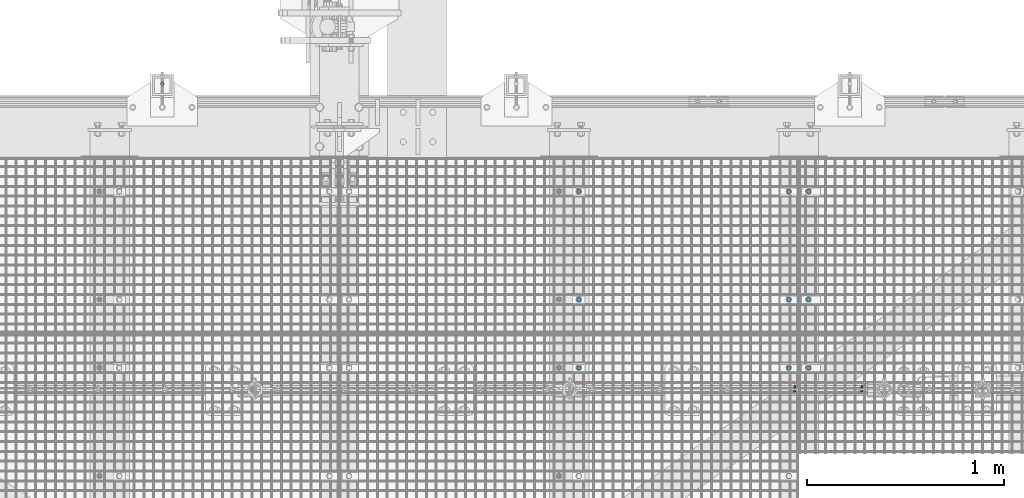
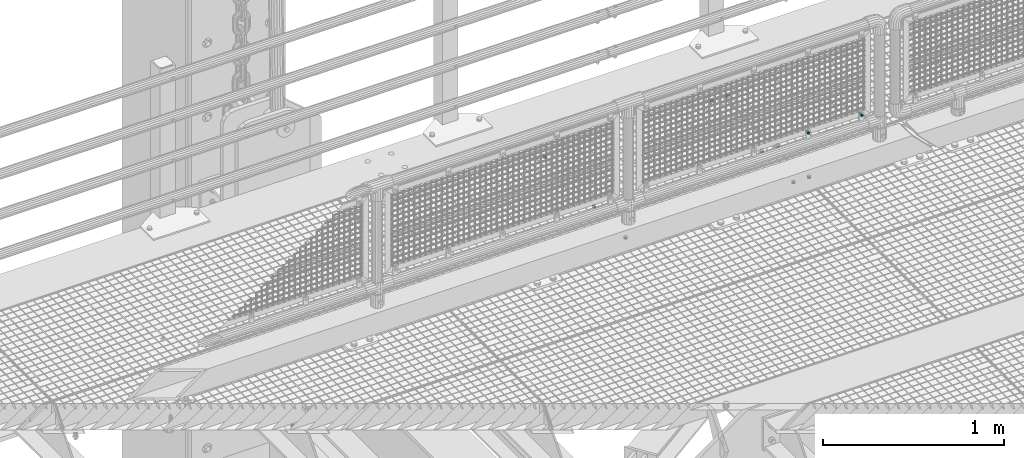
# One storey, part 101 of 1530: 12 mechanical fasteners.
"""IFC2X3 building model written with IfcOpenShell, lengths in millimetres."""

import ifcopenshell
import ifcopenshell.guid

model = None  # the IFC model being written
_history = None  # IfcOwnerHistory: only IFC2X3 demands one
_inside = {}  # id of a spatial element -> (the spatial element, [elements in it])
_under = {}  # id of a project, library or spatial element -> (it, [spatial elements below it])
_declared = {}  # id of a project -> (the project, [libraries it declares])
_typed = {}  # id of a type object -> (the type object, [elements of that type])
_made_of = {}  # id of a material, layer set ... -> (it, [elements and type objects made of it])


def new_model(schema):
    """Start an empty IFC model of exactly this schema.

    Asked for "IFC4X3", IfcOpenShell would pick the latest addendum, in which some entities
    have other attributes; the version numbers below select the first issue.
    IFC2X3 requires an IfcOwnerHistory on every rooted entity: one is made here for all.
    """
    global model, _history
    if schema == "IFC4X3":
        model = ifcopenshell.file(schema_version=(4, 3, 0, 0))
    else:
        model = ifcopenshell.file(schema=schema)
    _inside.clear()
    _under.clear()
    _declared.clear()
    _typed.clear()
    _made_of.clear()
    _history = None
    if model.schema == "IFC2X3":
        org = make("IfcOrganization", Name="unknown")
        user = make(
            "IfcPersonAndOrganization",
            ThePerson=make("IfcPerson", FamilyName="unknown"),
            TheOrganization=org,
        )
        app = make(
            "IfcApplication",
            ApplicationDeveloper=org,
            Version="unknown",
            ApplicationFullName="unknown",
            ApplicationIdentifier="unknown",
        )
        _history = make(
            "IfcOwnerHistory",
            OwningUser=user,
            OwningApplication=app,
            ChangeAction="ADDED",
            CreationDate=0,
        )
    return model


def make(cls, **values):
    """One entity of the class cls with the attributes given. An attribute that is None is left unset."""
    return model.create_entity(
        cls, **{name: value for name, value in values.items() if value is not None}
    )


def rooted(cls, **values):
    """An entity with a GlobalId (a new one), such as an element, a storey or a relation."""
    return make(cls, GlobalId=ifcopenshell.guid.new(), OwnerHistory=_history, **values)


def si_unit(unit_type, name, prefix=None):
    """IfcSIUnit, for example si_unit("LENGTHUNIT", "METRE", prefix="MILLI")."""
    return make("IfcSIUnit", UnitType=unit_type, Prefix=prefix, Name=name)


def assignment(units):
    """IfcUnitAssignment: the units of a project."""
    return None if units is None else make("IfcUnitAssignment", Units=units)


def point(xyz):
    """IfcCartesianPoint."""
    return None if xyz is None else make("IfcCartesianPoint", Coordinates=xyz)


def direction(xyz):
    """IfcDirection."""
    return None if xyz is None else make("IfcDirection", DirectionRatios=xyz)


def frame(location, z_axis=None, x_axis=None):
    """IfcAxis2Placement3D, a coordinate frame: its origin and axes. An axis left out is left unset."""
    return make(
        "IfcAxis2Placement3D",
        Location=point(location),
        Axis=direction(z_axis),
        RefDirection=direction(x_axis),
    )


def origin_with_axes():
    """The frame at (0, 0, 0) with the z axis (0, 0, 1) and the x axis (1, 0, 0) written out."""
    return frame((0.0, 0.0, 0.0), z_axis=(0.0, 0.0, 1.0), x_axis=(1.0, 0.0, 0.0))


def place(relative_to, where):
    """IfcLocalPlacement: puts the frame where relative to a parent placement (None: the world)."""
    return make(
        "IfcLocalPlacement", PlacementRelTo=relative_to, RelativePlacement=where
    )


def context(
    kind, dimensions, precision=None, world=None, true_north=None, identifier=None
):
    """IfcGeometricRepresentationContext, for example the 3D "Model" context."""
    return make(
        "IfcGeometricRepresentationContext",
        ContextIdentifier=identifier,
        ContextType=kind,
        CoordinateSpaceDimension=dimensions,
        Precision=precision,
        WorldCoordinateSystem=world,
        TrueNorth=true_north,
    )


def subcontext(parent, identifier, kind, view, scale=None):
    """IfcGeometricRepresentationSubContext, for example "Body" below "Model"."""
    return make(
        "IfcGeometricRepresentationSubContext",
        ContextIdentifier=identifier,
        ContextType=kind,
        ParentContext=parent,
        TargetScale=scale,
        TargetView=view,
    )


def project(units=None, contexts=None):
    """IfcProject with its units and contexts."""
    return rooted(
        "IfcProject",
        Name="project",
        RepresentationContexts=contexts,
        UnitsInContext=assignment(units),
    )


def spatial(cls, under=None, at=None, **own):
    """A site, building, storey or space (cls), placed at a placement, below another one or the project."""
    s = rooted(cls, ObjectPlacement=at, **own)
    if under is not None:
        _under.setdefault(under.id(), (under, []))[1].append(s)
    return s


def faces_of(points, faces, orient=None, outer=None):
    """IfcFace entities. A face is a list of loops; a loop is a list of indices into points, from 0.

    orient and outer hold one flag for each loop. By default every Orientation is true, the
    first loop of a face is its IfcFaceOuterBound and the others are IfcFaceBound.
    """
    made = []
    for i, loops in enumerate(faces):
        bounds = []
        for j, loop in enumerate(loops):
            is_outer = j == 0 if outer is None else outer[i][j]
            bounds.append(
                make(
                    "IfcFaceOuterBound" if is_outer else "IfcFaceBound",
                    Bound=make("IfcPolyLoop", Polygon=[points[k] for k in loop]),
                    Orientation=True if orient is None else orient[i][j],
                )
            )
        made.append(make("IfcFace", Bounds=bounds))
    return made


def faceted_brep(points, faces, orient=None, outer=None, voids=None):
    """IfcFacetedBrep: a solid bounded by flat faces; with voids (closed shells), ...WithVoids."""
    shared = [point(p) for p in points]
    hull = make("IfcClosedShell", CfsFaces=faces_of(shared, faces, orient, outer))
    if voids is None:
        return make("IfcFacetedBrep", Outer=hull)
    return make(
        "IfcFacetedBrepWithVoids",
        Outer=hull,
        Voids=[
            make(cls, CfsFaces=faces_of(shared, fs, o, b)) for cls, fs, o, b in voids
        ],
    )


def shape(context_of_items, identifier, shape_type, items):
    """IfcShapeRepresentation: the items that make up one representation, for example the "Body"."""
    return make(
        "IfcShapeRepresentation",
        ContextOfItems=context_of_items,
        RepresentationIdentifier=identifier,
        RepresentationType=shape_type,
        Items=items,
    )


def source(mapping_origin, context_of_items, identifier, shape_type, items):
    """IfcRepresentationMap: a shape defined once, which mapped items show again and again."""
    return make(
        "IfcRepresentationMap",
        MappingOrigin=mapping_origin,
        MappedRepresentation=shape(context_of_items, identifier, shape_type, items),
    )


def transform(
    local_origin,
    x_axis=None,
    y_axis=None,
    z_axis=None,
    scale=None,
    scale2=None,
    scale3=None,
    uniform=True,
):
    """IfcCartesianTransformationOperator3D, or its non-uniform kind. x_axis, y_axis, z_axis: its Axis1, 2, 3."""
    if uniform:
        return make(
            "IfcCartesianTransformationOperator3D",
            Axis1=direction(x_axis),
            Axis2=direction(y_axis),
            LocalOrigin=point(local_origin),
            Scale=scale,
            Axis3=direction(z_axis),
        )
    return make(
        "IfcCartesianTransformationOperator3DnonUniform",
        Axis1=direction(x_axis),
        Axis2=direction(y_axis),
        LocalOrigin=point(local_origin),
        Scale=scale,
        Axis3=direction(z_axis),
        Scale2=scale2,
        Scale3=scale3,
    )


def mapped(mapping_source, mapping_target):
    """IfcMappedItem: shows the shape of a source again, moved by a transform."""
    return make(
        "IfcMappedItem", MappingSource=mapping_source, MappingTarget=mapping_target
    )


def material(Name=None, Category=None):
    """IfcMaterial."""
    return make("IfcMaterial", Name=Name, Category=Category)


def made_of(thing, what):
    """Note that an element or type object is made of a material, layer set ...; save() writes the relation."""
    if what is not None:
        _made_of.setdefault(what.id(), (what, []))[1].append(thing)
    return thing


def type_object(cls, material=None, **own):
    """A type object (cls), such as IfcWallType, which elements share."""
    return made_of(rooted(cls, **own), material)


def element(
    cls,
    number,
    at=None,
    inside=None,
    cuts=None,
    type_object=None,
    material=None,
    context=None,
    identifier="Body",
    shape_type=None,
    held_by="IfcProductDefinitionShape",
    body=None,
    shapes=None,
    **own,
):
    """One element of the class cls, such as IfcWall. Its Tag is "e" and its number.

    at: its placement. inside: the storey or other place that contains it. cuts: it is an
    opening in that element (IfcRelVoidsElement). A single representation is given by context,
    identifier, shape_type and body (its items); several are given by shapes. held_by: the class
    of the entity that holds the representations. save() writes the other relations.
    """
    e = rooted(cls, Tag="e%d" % number, ObjectPlacement=at, **own)
    if body is not None:
        shapes = [shape(context, identifier, shape_type, body)]
    if shapes is not None:
        e.Representation = make(held_by, Representations=shapes)
    if inside is not None:
        _inside.setdefault(inside.id(), (inside, []))[1].append(e)
    if cuts is not None:
        rooted(
            "IfcRelVoidsElement", RelatingBuildingElement=cuts, RelatedOpeningElement=e
        )
    if type_object is not None:
        _typed.setdefault(type_object.id(), (type_object, []))[1].append(e)
    return made_of(e, material)


def aggregate(whole, parts):
    """IfcRelAggregates: a whole, such as a stair, and the parts it consists of."""
    return rooted("IfcRelAggregates", RelatingObject=whole, RelatedObjects=parts)


def save(model, path):
    """Write the relations noted so far, then the file.

    IfcRelAggregates (storeys below a building ...), IfcRelContainedInSpatialStructure (elements
    in a storey), IfcRelDefinesByType, IfcRelAssociatesMaterial and IfcRelDeclares: one each for
    every whole, place, type object, material and project.
    """
    for whole, parts in _under.values():
        aggregate(whole, parts)
    for where, things in _inside.values():
        rooted(
            "IfcRelContainedInSpatialStructure",
            RelatedElements=things,
            RelatingStructure=where,
        )
    for kind, things in _typed.values():
        rooted("IfcRelDefinesByType", RelatedObjects=things, RelatingType=kind)
    for what, things in _made_of.values():
        rooted("IfcRelAssociatesMaterial", RelatedObjects=things, RelatingMaterial=what)
    for by, libraries in _declared.values():
        rooted("IfcRelDeclares", RelatingContext=by, RelatedDefinitions=libraries)
    model.write(path)


model = new_model("IFC2X3")

# Units and contexts
model_context = context("Model", 3, precision=1e-05, world=origin_with_axes())
body_context = subcontext(model_context, "Body", "Model", "MODEL_VIEW")
ifc_project = project(units=[si_unit("LENGTHUNIT", "METRE", prefix="MILLI"), si_unit("AREAUNIT", "SQUARE_METRE"), si_unit("VOLUMEUNIT", "CUBIC_METRE"), si_unit("MASSUNIT", "GRAM", prefix="KILO"), si_unit("TIMEUNIT", "SECOND"), si_unit("PLANEANGLEUNIT", "RADIAN"), si_unit("SOLIDANGLEUNIT", "STERADIAN"), si_unit("THERMODYNAMICTEMPERATUREUNIT", "DEGREE_CELSIUS"), si_unit("LUMINOUSINTENSITYUNIT", "LUMEN")], contexts=[model_context])

# Site, building, storey
site_placement = place(None, origin_with_axes())
site = spatial("IfcSite", under=ifc_project, at=site_placement, Name="Brattvåg", CompositionType="ELEMENT")
building_placement = place(site_placement, origin_with_axes())
building = spatial("IfcBuilding", under=site, at=building_placement, Name="Undefined", CompositionType="ELEMENT")
storey_placement = place(building_placement, origin_with_axes())
storey = spatial("IfcBuildingStorey", under=building, at=storey_placement, Name="Undefined", CompositionType="ELEMENT", Elevation=0.0)

# Mechanical fasteners
ifc_material = material(Name="8")
mechanical_fastener_type = type_object("IfcMechanicalFastenerType", Name="Bolt assembly")
shared_shape_1 = source(origin_with_axes(), body_context, "Body", "Brep", [
    faceted_brep([(11.0, -4.99999999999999, 0.0), (9.52627944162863, -4.99999999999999, 5.50000000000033), (5.49999999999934, -4.99999999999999, 9.5262794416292), (-1.13996957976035e-12, -4.99999999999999, 11.0), (-5.50000000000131, -4.99999999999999, 9.52627944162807), (-9.52627944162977, -4.99999999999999, 5.49999999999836), (-11.0, -4.99999999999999, -2.27993915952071e-12), (-9.5262794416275, -4.99999999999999, -5.5000000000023), (-5.49999999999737, -4.99999999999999, -9.52627944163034), (3.40769628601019e-12, -4.99999999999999, -11.0), (5.50000000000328, -4.99999999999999, -9.52627944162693), (9.52627944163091, -4.99999999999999, -5.49999999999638), (9.52627944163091, 10.1, -5.49999999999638), (5.50000000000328, 10.1, -9.52627944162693), (3.40769628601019e-12, 10.1, -11.0), (-5.49999999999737, 10.1, -9.52627944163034), (-9.5262794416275, 10.1, -5.5000000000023), (-11.0, 10.1, -2.27993915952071e-12), (-9.52627944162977, 10.1, 5.49999999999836), (-5.50000000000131, 10.1, 9.52627944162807), (-1.13996957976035e-12, 10.1, 11.0), (5.49999999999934, 10.1, 9.5262794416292), (9.52627944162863, 10.1, 5.50000000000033), (11.0, 10.1, 0.0)], [[[0, 1, 2, 3, 4, 5, 6, 7, 8, 9, 10, 11]], [[12, 13, 14, 15, 16, 17, 18, 19, 20, 21, 22, 23]], [[0, 23, 22, 1]], [[1, 22, 21, 2]], [[2, 21, 20, 3]], [[3, 20, 19, 4]], [[4, 19, 18, 5]], [[5, 18, 17, 6]], [[6, 17, 16, 7]], [[7, 16, 15, 8]], [[8, 15, 14, 9]], [[9, 14, 13, 10]], [[10, 13, 12, 11]], [[11, 12, 23, 0]]]),
])
for number, where, z_axis, x_axis, name in (
    (1, (14636.0047793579, 8121.91931152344, -35.0), (0.0, 1.0, 0.0), (1.0, 0.0, 0.0), "Bolt assembly"),
    (2, (14636.0047793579, 8671.99411010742, -35.0), (0.0, 1.0, 0.0), (1.0, 0.0, 0.0), "Bolt assembly"),
    (3, (14636.0047793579, 7774.99411010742, -35.0), (0.0, 1.0, 0.0), (1.0, 0.0, 0.0), "Bolt assembly"),
    (4, (14536.0148773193, 8671.99411010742, -35.0), (0.0, -1.0, 0.0), (-1.0, 1.99999855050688e-09, 0.0), "Bolt assembly"),
    (5, (14536.0148773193, 8121.9904864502, -35.0), (0.0, -1.0, 0.0), (-1.0, 1.99999855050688e-09, 0.0), "Bolt assembly"),
    (6, (13468.0145606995, 8671.99565124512, -35.0), (0.0, -1.0, 0.0), (-1.0, 1.99999855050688e-09, 0.0), "Bolt assembly"),
    (7, (13468.0119254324, 8121.99, -35.0), (0.0, -1.0, 0.0), (-1.0, 1.99999855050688e-09, 0.0), "Bolt assembly"),
    (8, (14536.0148773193, 7774.99411010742, -35.0), (0.0, -1.0, 0.0), (-1.0, 1.99999855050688e-09, 0.0), "Bolt assembly"),
    (9, (13468.0145606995, 7774.99565124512, -35.0), (0.0, -1.0, 0.0), (-1.0, 1.99999855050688e-09, 0.0), "Bolt assembly"),
):
    element("IfcMechanicalFastener", number, at=place(storey_placement, frame(where, z_axis=z_axis, x_axis=x_axis)), inside=storey, type_object=mechanical_fastener_type, material=ifc_material, Name=name, NominalDiameter=20.0, NominalLength=15.0, context=body_context, shape_type="MappedRepresentation", body=[
        mapped(shared_shape_1, transform((0.0, 0.0, 0.0))),
    ])
shared_shape_2 = source(origin_with_axes(), body_context, "Body", "Brep", [
    faceted_brep([(9.0, -0.000108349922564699, 0.0), (7.79422863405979, -0.000108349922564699, 4.50000000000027), (4.49999999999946, -0.000108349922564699, 7.79422863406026), (-9.3270238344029e-13, -0.000108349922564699, 9.0), (-4.50000000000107, -0.000108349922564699, 7.79422863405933), (-7.79422863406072, -0.000108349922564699, 4.49999999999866), (-9.0, -0.000108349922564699, -1.86540476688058e-12), (-7.79422863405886, -0.000108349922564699, -4.50000000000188), (-4.49999999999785, -0.000108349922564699, -7.79422863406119), (2.78811514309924e-12, -0.000108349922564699, -9.0), (4.50000000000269, -0.000108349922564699, -7.7942286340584), (7.79422863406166, -0.000108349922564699, -4.49999999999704), (7.79422863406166, 10.0998916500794, -4.49999999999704), (4.50000000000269, 10.0998916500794, -7.7942286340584), (2.78811514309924e-12, 10.0998916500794, -9.0), (-4.49999999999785, 10.0998916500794, -7.79422863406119), (-7.79422863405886, 10.0998916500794, -4.50000000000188), (-9.0, 10.0998916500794, -1.86540476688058e-12), (-7.79422863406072, 10.0998916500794, 4.49999999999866), (-4.50000000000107, 10.0998916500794, 7.79422863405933), (-9.3270238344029e-13, 10.0998916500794, 9.0), (4.49999999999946, 10.0998916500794, 7.79422863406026), (7.79422863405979, 10.0998916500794, 4.50000000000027), (9.0, 10.0998916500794, 0.0)], [[[0, 1, 2, 3, 4, 5, 6, 7, 8, 9, 10, 11]], [[12, 13, 14, 15, 16, 17, 18, 19, 20, 21, 22, 23]], [[0, 23, 22, 1]], [[1, 22, 21, 2]], [[2, 21, 20, 3]], [[3, 20, 19, 4]], [[4, 19, 18, 5]], [[5, 18, 17, 6]], [[6, 17, 16, 7]], [[7, 16, 15, 8]], [[8, 15, 14, 9]], [[9, 14, 13, 10]], [[10, 13, 12, 11]], [[11, 12, 23, 0]]]),
])
mechanical_fastener_1_placement = place(storey_placement, frame((11350.0001602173, 9219.99992874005, -855.000061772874), z_axis=(-1.0, 1.99999855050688e-09, 0.0), x_axis=(0.0, -0.99999999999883, 1.53000000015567e-06)))
element("IfcMechanicalFastener", 10, at=mechanical_fastener_1_placement, inside=storey, type_object=mechanical_fastener_type, material=ifc_material, Name="Bolt assembly", NominalDiameter=16.0, NominalLength=10.0001087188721, context=body_context, shape_type="MappedRepresentation", body=[
    mapped(shared_shape_2, transform((0.0, 0.0, 0.0))),
])
shared_shape_3 = source(origin_with_axes(), body_context, "Body", "Brep", [
    faceted_brep([(7.50555349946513, -6.899000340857, 0.0), (3.75277674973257, -6.899000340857, 6.5), (-3.75277674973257, -6.899000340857, 6.5), (-7.50555349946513, -6.899000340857, 9.19165206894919e-16), (-3.75277674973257, -6.899000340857, -6.5), (3.75277674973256, -6.899000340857, -6.5), (3.75277674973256, -1.59900015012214, -6.5), (-3.75277674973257, -1.59900015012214, -6.5), (-7.50555349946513, -1.59900015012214, 9.19165206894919e-16), (-3.75277674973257, -1.59900015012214, 6.5), (3.75277674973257, -1.59900015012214, 6.5), (7.50555349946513, -1.59900015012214, 0.0), (4.0, -1.59900015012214, 0.0), (3.46410161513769, -1.59900015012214, 2.00000000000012), (1.99999999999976, -1.59900015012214, 3.46410161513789), (-4.14534392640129e-13, -1.59900015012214, 4.0), (-2.00000000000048, -1.59900015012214, 3.46410161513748), (-3.4641016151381, -1.59900015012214, 1.9999999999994), (-4.0, -1.59900015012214, -8.29068785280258e-13), (-3.46410161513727, -1.59900015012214, -2.00000000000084), (-1.99999999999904, -1.59900015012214, -3.46410161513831), (1.23916228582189e-12, -1.59900015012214, -4.0), (2.00000000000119, -1.59900015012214, -3.46410161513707), (3.46410161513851, -1.59900015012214, -1.99999999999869), (3.46410161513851, 28.4009998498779, -1.99999999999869), (2.00000000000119, 28.4009998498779, -3.46410161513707), (1.23916228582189e-12, 28.4009998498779, -4.0), (-1.99999999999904, 28.4009998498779, -3.46410161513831), (-3.46410161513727, 28.4009998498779, -2.00000000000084), (-4.0, 28.4009998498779, -8.29068785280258e-13), (-3.4641016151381, 28.4009998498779, 1.9999999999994), (-2.00000000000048, 28.4009998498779, 3.46410161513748), (-4.14534392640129e-13, 28.4009998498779, 4.0), (1.99999999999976, 28.4009998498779, 3.46410161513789), (3.46410161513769, 28.4009998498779, 2.00000000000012), (4.0, 28.4009998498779, 0.0), (8.5, -1.59900015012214, 0.0), (7.36121593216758, -1.59900015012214, 4.25000000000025), (4.24999999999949, -1.59900015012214, 7.36121593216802), (-8.80885584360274e-13, -1.59900015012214, 8.5), (-4.25000000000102, -1.59900015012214, 7.36121593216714), (-7.36121593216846, -1.59900015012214, 4.24999999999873), (-8.5, -1.59900015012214, -1.76177116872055e-12), (-7.3612159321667, -1.59900015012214, -4.25000000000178), (-4.24999999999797, -1.59900015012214, -7.3612159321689), (2.63321985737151e-12, -1.59900015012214, -8.5), (4.25000000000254, -1.59900015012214, -7.36121593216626), (7.36121593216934, -1.59900015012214, -4.24999999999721), (7.36121593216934, 0.000999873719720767, -4.24999999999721), (4.25000000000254, 0.000999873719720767, -7.36121593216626), (2.63321985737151e-12, 0.000999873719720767, -8.5), (-4.24999999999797, 0.000999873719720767, -7.3612159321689), (-7.3612159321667, 0.000999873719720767, -4.25000000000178), (-8.5, 0.000999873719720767, -1.76177116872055e-12), (-7.36121593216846, 0.000999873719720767, 4.24999999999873), (-4.25000000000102, 0.000999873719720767, 7.36121593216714), (-8.80885584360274e-13, 0.000999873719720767, 8.5), (4.24999999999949, 0.000999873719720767, 7.36121593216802), (7.36121593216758, 0.000999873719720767, 4.25000000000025), (8.5, 0.000999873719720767, 0.0), (8.5, 11.5030995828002, 0.0), (7.36121593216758, 11.5030995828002, 4.25000000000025), (4.24999999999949, 11.5030995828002, 7.36121593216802), (-8.80885584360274e-13, 11.5030995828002, 8.5), (-4.25000000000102, 11.5030995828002, 7.36121593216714), (-7.36121593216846, 11.5030995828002, 4.24999999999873), (-8.5, 11.5030995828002, -1.76177116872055e-12), (-7.3612159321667, 11.5030995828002, -4.25000000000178), (-4.24999999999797, 11.5030995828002, -7.3612159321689), (2.63321985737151e-12, 11.5030995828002, -8.5), (4.25000000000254, 11.5030995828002, -7.36121593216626), (7.36121593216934, 11.5030995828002, -4.24999999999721), (7.36121593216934, 13.1030996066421, -4.24999999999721), (4.25000000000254, 13.1030996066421, -7.36121593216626), (2.63321985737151e-12, 13.1030996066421, -8.5), (-4.24999999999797, 13.1030996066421, -7.3612159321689), (-7.3612159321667, 13.1030996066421, -4.25000000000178), (-8.5, 13.1030996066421, -1.76177116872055e-12), (-7.36121593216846, 13.1030996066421, 4.24999999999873), (-4.25000000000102, 13.1030996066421, 7.36121593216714), (-8.80885584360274e-13, 13.1030996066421, 8.5), (4.24999999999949, 13.1030996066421, 7.36121593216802), (7.36121593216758, 13.1030996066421, 4.25000000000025), (8.5, 13.1030996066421, 0.0), (7.50555349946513, 13.1030996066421, 0.0), (3.75277674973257, 13.1030996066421, 6.5), (-3.75277674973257, 13.1030996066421, 6.5), (-7.50555349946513, 13.1030996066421, 9.19165206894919e-16), (-3.75277674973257, 13.1030996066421, -6.5), (3.75277674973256, 13.1030996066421, -6.5), (3.75277674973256, 19.9030997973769, -6.5), (-3.75277674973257, 19.9030997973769, -6.5), (-7.50555349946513, 19.9030997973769, 9.19165206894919e-16), (-3.75277674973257, 19.9030997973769, 6.5), (3.75277674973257, 19.9030997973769, 6.5), (7.50555349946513, 19.9030997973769, 0.0)], [[[0, 1, 2, 3, 4, 5]], [[6, 7, 8, 9, 10, 11]], [[0, 11, 10, 1]], [[1, 10, 9, 2]], [[2, 9, 8, 3]], [[3, 8, 7, 4]], [[4, 7, 6, 5]], [[5, 6, 11, 0]], [[12, 13, 14, 15, 16, 17, 18, 19, 20, 21, 22, 23]], [[24, 25, 26, 27, 28, 29, 30, 31, 32, 33, 34, 35]], [[12, 35, 34, 13]], [[13, 34, 33, 14]], [[14, 33, 32, 15]], [[15, 32, 31, 16]], [[16, 31, 30, 17]], [[17, 30, 29, 18]], [[18, 29, 28, 19]], [[19, 28, 27, 20]], [[20, 27, 26, 21]], [[21, 26, 25, 22]], [[22, 25, 24, 23]], [[23, 24, 35, 12]], [[36, 37, 38, 39, 40, 41, 42, 43, 44, 45, 46, 47]], [[48, 49, 50, 51, 52, 53, 54, 55, 56, 57, 58, 59]], [[36, 59, 58, 37]], [[37, 58, 57, 38]], [[38, 57, 56, 39]], [[39, 56, 55, 40]], [[40, 55, 54, 41]], [[41, 54, 53, 42]], [[42, 53, 52, 43]], [[43, 52, 51, 44]], [[44, 51, 50, 45]], [[45, 50, 49, 46]], [[46, 49, 48, 47]], [[47, 48, 59, 36]], [[60, 61, 62, 63, 64, 65, 66, 67, 68, 69, 70, 71]], [[72, 73, 74, 75, 76, 77, 78, 79, 80, 81, 82, 83]], [[60, 83, 82, 61]], [[61, 82, 81, 62]], [[62, 81, 80, 63]], [[63, 80, 79, 64]], [[64, 79, 78, 65]], [[65, 78, 77, 66]], [[66, 77, 76, 67]], [[67, 76, 75, 68]], [[68, 75, 74, 69]], [[69, 74, 73, 70]], [[70, 73, 72, 71]], [[71, 72, 83, 60]], [[84, 85, 86, 87, 88, 89]], [[90, 91, 92, 93, 94, 95]], [[84, 95, 94, 85]], [[85, 94, 93, 86]], [[86, 93, 92, 87]], [[87, 92, 91, 88]], [[88, 91, 90, 89]], [[89, 90, 95, 84]]]),
    faceted_brep([(5.0, 0.100999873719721, 0.0), (4.33012701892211, 0.100999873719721, 2.50000000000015), (2.4999999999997, 0.100999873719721, 4.33012701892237), (-5.18167990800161e-13, 0.100999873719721, 5.0), (-2.5000000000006, 0.100999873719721, 4.33012701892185), (-4.33012701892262, 0.100999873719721, 2.49999999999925), (-5.0, 0.100999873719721, -1.03633598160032e-12), (-4.33012701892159, 0.100999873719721, -2.50000000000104), (-2.49999999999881, 0.100999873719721, -4.33012701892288), (1.54895285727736e-12, 0.100999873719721, -5.0), (2.50000000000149, 0.100999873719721, -4.33012701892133), (4.33012701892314, 0.100999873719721, -2.49999999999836), (4.33012701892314, 8.10099988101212, -2.49999999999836), (2.50000000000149, 8.10099988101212, -4.33012701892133), (1.54895285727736e-12, 8.10099988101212, -5.0), (-2.49999999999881, 8.10099988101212, -4.33012701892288), (-4.33012701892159, 8.10099988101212, -2.50000000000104), (-5.0, 8.10099988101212, -1.03633598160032e-12), (-4.33012701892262, 8.10099988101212, 2.49999999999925), (-2.5000000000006, 8.10099988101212, 4.33012701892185), (-5.18167990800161e-13, 8.10099988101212, 5.0), (2.4999999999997, 8.10099988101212, 4.33012701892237), (4.33012701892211, 8.10099988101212, 2.50000000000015), (5.0, 8.10099988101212, 0.0), (5.0, 8.40309958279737, 0.0), (4.33012701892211, 8.40309958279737, 2.50000000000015), (2.4999999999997, 8.40309958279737, 4.33012701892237), (-5.18167990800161e-13, 8.40309958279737, 5.0), (-2.5000000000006, 8.40309958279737, 4.33012701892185), (-4.33012701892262, 8.40309958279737, 2.49999999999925), (-5.0, 8.40309958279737, -1.03633598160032e-12), (-4.33012701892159, 8.40309958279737, -2.50000000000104), (-2.49999999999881, 8.40309958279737, -4.33012701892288), (1.54895285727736e-12, 8.40309958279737, -5.0), (2.50000000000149, 8.40309958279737, -4.33012701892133), (4.33012701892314, 8.40309958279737, -2.49999999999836), (4.33012701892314, 11.5030995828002, -2.49999999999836), (2.50000000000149, 11.5030995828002, -4.33012701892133), (1.54895285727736e-12, 11.5030995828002, -5.0), (-2.49999999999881, 11.5030995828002, -4.33012701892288), (-4.33012701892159, 11.5030995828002, -2.50000000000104), (-5.0, 11.5030995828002, -1.03633598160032e-12), (-4.33012701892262, 11.5030995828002, 2.49999999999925), (-2.5000000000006, 11.5030995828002, 4.33012701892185), (-5.18167990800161e-13, 11.5030995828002, 5.0), (2.4999999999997, 11.5030995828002, 4.33012701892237), (4.33012701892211, 11.5030995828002, 2.50000000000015), (5.0, 11.5030995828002, 0.0)], [[[0, 1, 2, 3, 4, 5, 6, 7, 8, 9, 10, 11]], [[12, 13, 14, 15, 16, 17, 18, 19, 20, 21, 22, 23]], [[0, 23, 22, 1]], [[1, 22, 21, 2]], [[2, 21, 20, 3]], [[3, 20, 19, 4]], [[4, 19, 18, 5]], [[5, 18, 17, 6]], [[6, 17, 16, 7]], [[7, 16, 15, 8]], [[8, 15, 14, 9]], [[9, 14, 13, 10]], [[10, 13, 12, 11]], [[11, 12, 23, 0]], [[24, 25, 26, 27, 28, 29, 30, 31, 32, 33, 34, 35]], [[36, 37, 38, 39, 40, 41, 42, 43, 44, 45, 46, 47]], [[24, 47, 46, 25]], [[25, 46, 45, 26]], [[26, 45, 44, 27]], [[27, 44, 43, 28]], [[28, 43, 42, 29]], [[29, 42, 41, 30]], [[30, 41, 40, 31]], [[31, 40, 39, 32]], [[32, 39, 38, 33]], [[33, 38, 37, 34]], [[34, 37, 36, 35]], [[35, 36, 47, 24]]]),
])
mechanical_fastener_2_placement = place(storey_placement, frame((14565.8512954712, 7660.49843978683, 352.299672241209), z_axis=(-1.0, 1.99999855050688e-09, 0.0), x_axis=(0.0, 0.0, 1.0)))
element("IfcMechanicalFastener", 11, at=mechanical_fastener_2_placement, inside=storey, type_object=mechanical_fastener_type, material=ifc_material, Name="Bolt assembly", NominalDiameter=8.0, NominalLength=30.0, context=body_context, shape_type="MappedRepresentation", body=[
    mapped(shared_shape_3, transform((0.0, 0.0, 0.0))),
])
shared_shape_4 = source(origin_with_axes(), body_context, "Body", "Brep", [
    faceted_brep([(7.50555349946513, -6.899000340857, 0.0), (3.75277674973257, -6.899000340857, 6.5), (-3.75277674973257, -6.899000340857, 6.5), (-7.50555349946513, -6.899000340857, 9.19165206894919e-16), (-3.75277674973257, -6.899000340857, -6.5), (3.75277674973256, -6.899000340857, -6.5), (3.75277674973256, -1.59900015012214, -6.5), (-3.75277674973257, -1.59900015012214, -6.5), (-7.50555349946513, -1.59900015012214, 9.19165206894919e-16), (-3.75277674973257, -1.59900015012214, 6.5), (3.75277674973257, -1.59900015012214, 6.5), (7.50555349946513, -1.59900015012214, 0.0), (4.0, -1.59900015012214, 0.0), (3.46410161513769, -1.59900015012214, 2.00000000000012), (1.99999999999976, -1.59900015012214, 3.46410161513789), (-4.14534392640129e-13, -1.59900015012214, 4.0), (-2.00000000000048, -1.59900015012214, 3.46410161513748), (-3.4641016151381, -1.59900015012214, 1.9999999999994), (-4.0, -1.59900015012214, -8.29068785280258e-13), (-3.46410161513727, -1.59900015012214, -2.00000000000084), (-1.99999999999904, -1.59900015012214, -3.46410161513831), (1.23916228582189e-12, -1.59900015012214, -4.0), (2.00000000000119, -1.59900015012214, -3.46410161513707), (3.46410161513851, -1.59900015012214, -1.99999999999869), (3.46410161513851, 28.4009998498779, -1.99999999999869), (2.00000000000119, 28.4009998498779, -3.46410161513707), (1.23916228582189e-12, 28.4009998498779, -4.0), (-1.99999999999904, 28.4009998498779, -3.46410161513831), (-3.46410161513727, 28.4009998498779, -2.00000000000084), (-4.0, 28.4009998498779, -8.29068785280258e-13), (-3.4641016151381, 28.4009998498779, 1.9999999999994), (-2.00000000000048, 28.4009998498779, 3.46410161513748), (-4.14534392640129e-13, 28.4009998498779, 4.0), (1.99999999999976, 28.4009998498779, 3.46410161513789), (3.46410161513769, 28.4009998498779, 2.00000000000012), (4.0, 28.4009998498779, 0.0), (8.5, -1.59900015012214, 0.0), (7.36121593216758, -1.59900015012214, 4.25000000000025), (4.24999999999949, -1.59900015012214, 7.36121593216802), (-8.80885584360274e-13, -1.59900015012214, 8.5), (-4.25000000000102, -1.59900015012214, 7.36121593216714), (-7.36121593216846, -1.59900015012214, 4.24999999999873), (-8.5, -1.59900015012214, -1.76177116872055e-12), (-7.3612159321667, -1.59900015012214, -4.25000000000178), (-4.24999999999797, -1.59900015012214, -7.3612159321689), (2.63321985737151e-12, -1.59900015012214, -8.5), (4.25000000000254, -1.59900015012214, -7.36121593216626), (7.36121593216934, -1.59900015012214, -4.24999999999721), (7.36121593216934, 0.000999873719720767, -4.24999999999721), (4.25000000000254, 0.000999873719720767, -7.36121593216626), (2.63321985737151e-12, 0.000999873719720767, -8.5), (-4.24999999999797, 0.000999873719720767, -7.3612159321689), (-7.3612159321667, 0.000999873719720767, -4.25000000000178), (-8.5, 0.000999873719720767, -1.76177116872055e-12), (-7.36121593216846, 0.000999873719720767, 4.24999999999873), (-4.25000000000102, 0.000999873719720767, 7.36121593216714), (-8.80885584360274e-13, 0.000999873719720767, 8.5), (4.24999999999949, 0.000999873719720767, 7.36121593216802), (7.36121593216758, 0.000999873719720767, 4.25000000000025), (8.5, 0.000999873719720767, 0.0), (8.5, 11.5022147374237, 0.0), (7.36121593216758, 11.5022147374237, 4.25000000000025), (4.24999999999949, 11.5022147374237, 7.36121593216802), (-8.80885584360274e-13, 11.5022147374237, 8.5), (-4.25000000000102, 11.5022147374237, 7.36121593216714), (-7.36121593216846, 11.5022147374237, 4.24999999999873), (-8.5, 11.5022147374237, -1.76177116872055e-12), (-7.3612159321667, 11.5022147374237, -4.25000000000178), (-4.24999999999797, 11.5022147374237, -7.3612159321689), (2.63321985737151e-12, 11.5022147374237, -8.5), (4.25000000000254, 11.5022147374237, -7.36121593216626), (7.36121593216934, 11.5022147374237, -4.24999999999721), (7.36121593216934, 13.1022147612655, -4.24999999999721), (4.25000000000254, 13.1022147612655, -7.36121593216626), (2.63321985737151e-12, 13.1022147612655, -8.5), (-4.24999999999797, 13.1022147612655, -7.3612159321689), (-7.3612159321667, 13.1022147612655, -4.25000000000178), (-8.5, 13.1022147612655, -1.76177116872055e-12), (-7.36121593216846, 13.1022147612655, 4.24999999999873), (-4.25000000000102, 13.1022147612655, 7.36121593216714), (-8.80885584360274e-13, 13.1022147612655, 8.5), (4.24999999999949, 13.1022147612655, 7.36121593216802), (7.36121593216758, 13.1022147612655, 4.25000000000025), (8.5, 13.1022147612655, 0.0), (7.50555349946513, 13.1022147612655, 0.0), (3.75277674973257, 13.1022147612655, 6.5), (-3.75277674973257, 13.1022147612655, 6.5), (-7.50555349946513, 13.1022147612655, 9.19165206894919e-16), (-3.75277674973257, 13.1022147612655, -6.5), (3.75277674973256, 13.1022147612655, -6.5), (3.75277674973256, 19.9022149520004, -6.5), (-3.75277674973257, 19.9022149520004, -6.5), (-7.50555349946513, 19.9022149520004, 9.19165206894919e-16), (-3.75277674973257, 19.9022149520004, 6.5), (3.75277674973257, 19.9022149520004, 6.5), (7.50555349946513, 19.9022149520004, 0.0)], [[[0, 1, 2, 3, 4, 5]], [[6, 7, 8, 9, 10, 11]], [[0, 11, 10, 1]], [[1, 10, 9, 2]], [[2, 9, 8, 3]], [[3, 8, 7, 4]], [[4, 7, 6, 5]], [[5, 6, 11, 0]], [[12, 13, 14, 15, 16, 17, 18, 19, 20, 21, 22, 23]], [[24, 25, 26, 27, 28, 29, 30, 31, 32, 33, 34, 35]], [[12, 35, 34, 13]], [[13, 34, 33, 14]], [[14, 33, 32, 15]], [[15, 32, 31, 16]], [[16, 31, 30, 17]], [[17, 30, 29, 18]], [[18, 29, 28, 19]], [[19, 28, 27, 20]], [[20, 27, 26, 21]], [[21, 26, 25, 22]], [[22, 25, 24, 23]], [[23, 24, 35, 12]], [[36, 37, 38, 39, 40, 41, 42, 43, 44, 45, 46, 47]], [[48, 49, 50, 51, 52, 53, 54, 55, 56, 57, 58, 59]], [[36, 59, 58, 37]], [[37, 58, 57, 38]], [[38, 57, 56, 39]], [[39, 56, 55, 40]], [[40, 55, 54, 41]], [[41, 54, 53, 42]], [[42, 53, 52, 43]], [[43, 52, 51, 44]], [[44, 51, 50, 45]], [[45, 50, 49, 46]], [[46, 49, 48, 47]], [[47, 48, 59, 36]], [[60, 61, 62, 63, 64, 65, 66, 67, 68, 69, 70, 71]], [[72, 73, 74, 75, 76, 77, 78, 79, 80, 81, 82, 83]], [[60, 83, 82, 61]], [[61, 82, 81, 62]], [[62, 81, 80, 63]], [[63, 80, 79, 64]], [[64, 79, 78, 65]], [[65, 78, 77, 66]], [[66, 77, 76, 67]], [[67, 76, 75, 68]], [[68, 75, 74, 69]], [[69, 74, 73, 70]], [[70, 73, 72, 71]], [[71, 72, 83, 60]], [[84, 85, 86, 87, 88, 89]], [[90, 91, 92, 93, 94, 95]], [[84, 95, 94, 85]], [[85, 94, 93, 86]], [[86, 93, 92, 87]], [[87, 92, 91, 88]], [[88, 91, 90, 89]], [[89, 90, 95, 84]]]),
    faceted_brep([(5.0, 0.100999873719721, 0.0), (4.33012701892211, 0.100999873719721, 2.50000000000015), (2.4999999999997, 0.100999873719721, 4.33012701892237), (-5.18167990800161e-13, 0.100999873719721, 5.0), (-2.5000000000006, 0.100999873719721, 4.33012701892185), (-4.33012701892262, 0.100999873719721, 2.49999999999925), (-5.0, 0.100999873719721, -1.03633598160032e-12), (-4.33012701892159, 0.100999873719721, -2.50000000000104), (-2.49999999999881, 0.100999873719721, -4.33012701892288), (1.54895285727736e-12, 0.100999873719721, -5.0), (2.50000000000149, 0.100999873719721, -4.33012701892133), (4.33012701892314, 0.100999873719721, -2.49999999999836), (4.33012701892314, 8.10099988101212, -2.49999999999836), (2.50000000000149, 8.10099988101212, -4.33012701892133), (1.54895285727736e-12, 8.10099988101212, -5.0), (-2.49999999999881, 8.10099988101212, -4.33012701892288), (-4.33012701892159, 8.10099988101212, -2.50000000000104), (-5.0, 8.10099988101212, -1.03633598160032e-12), (-4.33012701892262, 8.10099988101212, 2.49999999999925), (-2.5000000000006, 8.10099988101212, 4.33012701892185), (-5.18167990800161e-13, 8.10099988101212, 5.0), (2.4999999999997, 8.10099988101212, 4.33012701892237), (4.33012701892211, 8.10099988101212, 2.50000000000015), (5.0, 8.10099988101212, 0.0), (5.0, 8.40221473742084, 0.0), (4.33012701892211, 8.40221473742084, 2.50000000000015), (2.4999999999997, 8.40221473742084, 4.33012701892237), (-5.18167990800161e-13, 8.40221473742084, 5.0), (-2.5000000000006, 8.40221473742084, 4.33012701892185), (-4.33012701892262, 8.40221473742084, 2.49999999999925), (-5.0, 8.40221473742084, -1.03633598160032e-12), (-4.33012701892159, 8.40221473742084, -2.50000000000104), (-2.49999999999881, 8.40221473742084, -4.33012701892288), (1.54895285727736e-12, 8.40221473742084, -5.0), (2.50000000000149, 8.40221473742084, -4.33012701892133), (4.33012701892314, 8.40221473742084, -2.49999999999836), (4.33012701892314, 11.5022147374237, -2.49999999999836), (2.50000000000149, 11.5022147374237, -4.33012701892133), (1.54895285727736e-12, 11.5022147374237, -5.0), (-2.49999999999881, 11.5022147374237, -4.33012701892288), (-4.33012701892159, 11.5022147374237, -2.50000000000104), (-5.0, 11.5022147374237, -1.03633598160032e-12), (-4.33012701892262, 11.5022147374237, 2.49999999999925), (-2.5000000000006, 11.5022147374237, 4.33012701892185), (-5.18167990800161e-13, 11.5022147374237, 5.0), (2.4999999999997, 11.5022147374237, 4.33012701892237), (4.33012701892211, 11.5022147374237, 2.50000000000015), (5.0, 11.5022147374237, 0.0)], [[[0, 1, 2, 3, 4, 5, 6, 7, 8, 9, 10, 11]], [[12, 13, 14, 15, 16, 17, 18, 19, 20, 21, 22, 23]], [[0, 23, 22, 1]], [[1, 22, 21, 2]], [[2, 21, 20, 3]], [[3, 20, 19, 4]], [[4, 19, 18, 5]], [[5, 18, 17, 6]], [[6, 17, 16, 7]], [[7, 16, 15, 8]], [[8, 15, 14, 9]], [[9, 14, 13, 10]], [[10, 13, 12, 11]], [[11, 12, 23, 0]], [[24, 25, 26, 27, 28, 29, 30, 31, 32, 33, 34, 35]], [[36, 37, 38, 39, 40, 41, 42, 43, 44, 45, 46, 47]], [[24, 47, 46, 25]], [[25, 46, 45, 26]], [[26, 45, 44, 27]], [[27, 44, 43, 28]], [[28, 43, 42, 29]], [[29, 42, 41, 30]], [[30, 41, 40, 31]], [[31, 40, 39, 32]], [[32, 39, 38, 33]], [[33, 38, 37, 34]], [[34, 37, 36, 35]], [[35, 36, 47, 24]]]),
])
mechanical_fastener_3_placement = place(storey_placement, frame((14905.99974823, 7660.49888992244, 352.300205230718), z_axis=(-1.0, 1.99999855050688e-09, 0.0), x_axis=(0.0, 0.0, 1.0)))
element("IfcMechanicalFastener", 12, at=mechanical_fastener_3_placement, inside=storey, type_object=mechanical_fastener_type, material=ifc_material, Name="Bolt assembly", NominalDiameter=8.0, NominalLength=30.0, context=body_context, shape_type="MappedRepresentation", body=[
    mapped(shared_shape_4, transform((0.0, 0.0, 0.0))),
])

save(model, "model.ifc")
